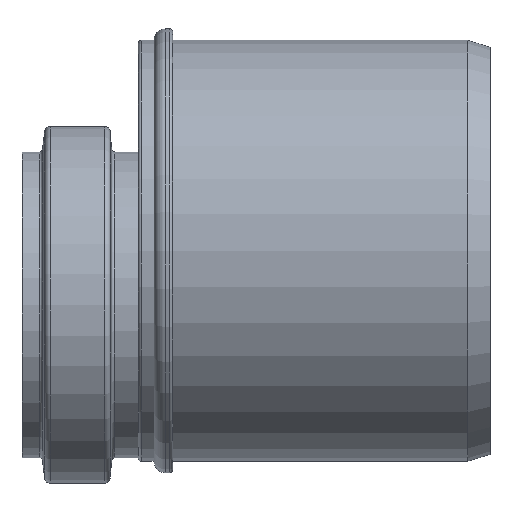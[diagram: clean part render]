
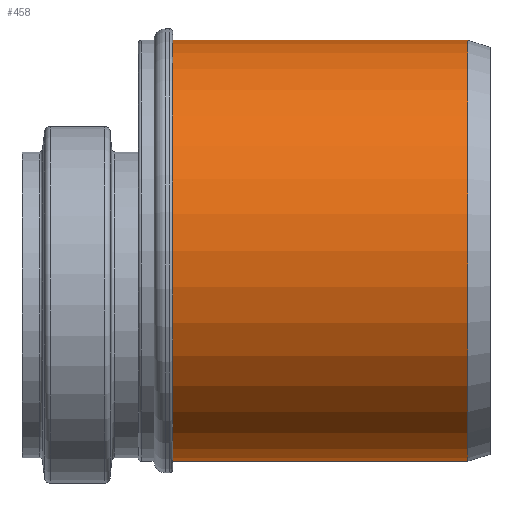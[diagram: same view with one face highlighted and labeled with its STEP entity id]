
A CAD part, left-side view. The second image highlights one B-rep face of the part: STEP entity #458.
In plain terms, the highlighted cylindrical face has radius 37.6 mm (diameter 75.2 mm), a full revolution.
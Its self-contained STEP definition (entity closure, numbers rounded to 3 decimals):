
#43=CYLINDRICAL_SURFACE($,#534,37.6);
#76=FACE_BOUND($,#173,.T.);
#109=FACE_OUTER_BOUND($,#172,.T.);
#172=EDGE_LOOP($,(#374));
#173=EDGE_LOOP($,(#375));
#179=CIRCLE($,#469,37.6);
#212=CIRCLE($,#532,37.6);
#217=VERTEX_POINT($,#698);
#250=VERTEX_POINT($,#798);
#255=EDGE_CURVE($,#217,#217,#179,.T.);
#292=EDGE_CURVE($,#250,#250,#212,.T.);
#374=ORIENTED_EDGE($,*,*,#255,.F.);
#375=ORIENTED_EDGE($,*,*,#292,.F.);
#458=ADVANCED_FACE($,(#109,#76),#43,.T.);
#469=AXIS2_PLACEMENT_3D($,#699,#550,#551);
#532=AXIS2_PLACEMENT_3D($,#799,#680,#681);
#534=AXIS2_PLACEMENT_3D($,#802,#684,#685);
#550=DIRECTION('center_axis',(0.,1.,0.));
#551=DIRECTION('ref_axis',(1.,0.,0.));
#680=DIRECTION('center_axis',(0.,-1.,0.));
#681=DIRECTION('ref_axis',(1.,0.,0.));
#684=DIRECTION('center_axis',(0.,1.,0.));
#685=DIRECTION('ref_axis',(1.,0.,0.));
#698=CARTESIAN_POINT('',(-37.6,56.7,0.));
#699=CARTESIAN_POINT('Origin',(0.,56.7,0.));
#798=CARTESIAN_POINT('',(-37.6,4.,0.));
#799=CARTESIAN_POINT('Origin',(0.,4.,0.));
#802=CARTESIAN_POINT('Origin',(0.,0.,0.));
